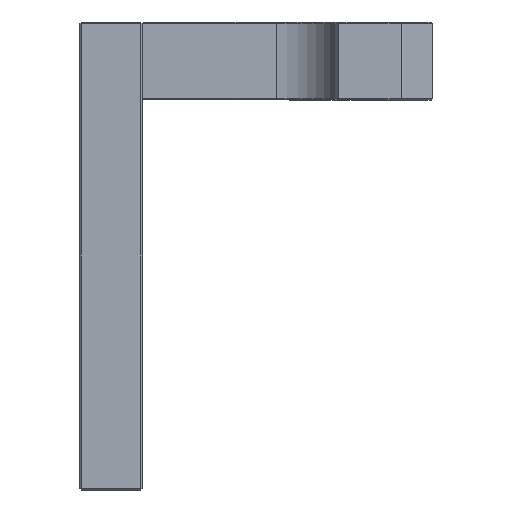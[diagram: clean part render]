
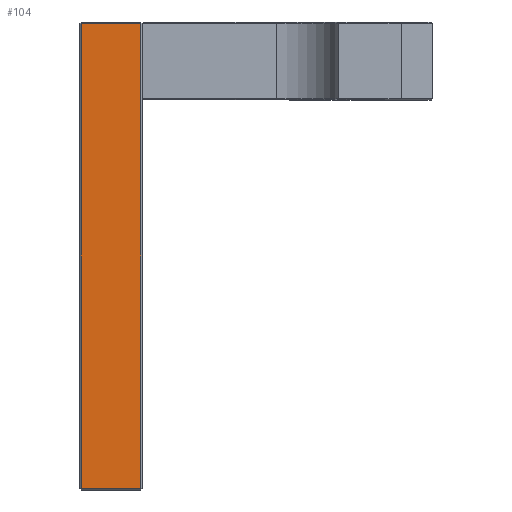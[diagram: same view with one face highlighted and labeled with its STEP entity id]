
A CAD part, left-side view. The second image highlights one B-rep face of the part: STEP entity #104.
In plain terms, the highlighted planar face has unit normal (-1, 0, 0).
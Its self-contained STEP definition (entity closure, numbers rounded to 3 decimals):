
#104 = ADVANCED_FACE ( 'NONE', ( #2378 ), #7153, .F. ) ;
#860 = AXIS2_PLACEMENT_3D ( 'NONE', #7157, #7151, #7150 ) ;
#1649 = EDGE_CURVE ( 'NONE', #4775, #4835, #5098, .T. ) ;
#1650 = EDGE_CURVE ( 'NONE', #4835, #4780, #5096, .T. ) ;
#1894 = EDGE_CURVE ( 'NONE', #4662, #4775, #2001, .T. ) ;
#1941 = EDGE_CURVE ( 'NONE', #4780, #4662, #2074, .T. ) ;
#2001 = LINE ( 'NONE', #6187, #2005 ) ;
#2005 = VECTOR ( 'NONE', #6110, 1000. ) ;
#2074 = LINE ( 'NONE', #4534, #2077 ) ;
#2077 = VECTOR ( 'NONE', #4533, 1000. ) ;
#2378 = FACE_OUTER_BOUND ( 'NONE', #4054, .T. ) ;
#3089 = ORIENTED_EDGE ( 'NONE', *, *, #1649, .T. ) ;
#3090 = ORIENTED_EDGE ( 'NONE', *, *, #1650, .T. ) ;
#4054 = EDGE_LOOP ( 'NONE', ( #5428, #3089, #3090, #5426 ) ) ;
#4160 = CARTESIAN_POINT ( 'NONE',  ( -75., 93.5, -0.5 ) ) ;
#4215 = CARTESIAN_POINT ( 'NONE',  ( -75., 112.5, -0.5 ) ) ;
#4220 = CARTESIAN_POINT ( 'NONE',  ( -75., 93.5, -149.5 ) ) ;
#4333 = CARTESIAN_POINT ( 'NONE',  ( -75., 112.5, -149.5 ) ) ;
#4533 = DIRECTION ( 'NONE',  ( 0., 0., -1. ) ) ;
#4534 = CARTESIAN_POINT ( 'NONE',  ( -75., 112.5, -150. ) ) ;
#4662 = VERTEX_POINT ( 'NONE', #4333 ) ;
#4775 = VERTEX_POINT ( 'NONE', #4220 ) ;
#4780 = VERTEX_POINT ( 'NONE', #4215 ) ;
#4835 = VERTEX_POINT ( 'NONE', #4160 ) ;
#5096 = LINE ( 'NONE', #5888, #5103 ) ;
#5098 = LINE ( 'NONE', #5874, #5101 ) ;
#5101 = VECTOR ( 'NONE', #5872, 1000. ) ;
#5103 = VECTOR ( 'NONE', #5871, 1000. ) ;
#5426 = ORIENTED_EDGE ( 'NONE', *, *, #1941, .T. ) ;
#5428 = ORIENTED_EDGE ( 'NONE', *, *, #1894, .T. ) ;
#5871 = DIRECTION ( 'NONE',  ( 0., 1., 0. ) ) ;
#5872 = DIRECTION ( 'NONE',  ( 0., 0., 1. ) ) ;
#5874 = CARTESIAN_POINT ( 'NONE',  ( -75., 93.5, -150. ) ) ;
#5888 = CARTESIAN_POINT ( 'NONE',  ( -75., 113., -0.5 ) ) ;
#6110 = DIRECTION ( 'NONE',  ( 0., -1., 0. ) ) ;
#6187 = CARTESIAN_POINT ( 'NONE',  ( -75., 113., -149.5 ) ) ;
#7150 = DIRECTION ( 'NONE',  ( 0., 0., -1. ) ) ;
#7151 = DIRECTION ( 'NONE',  ( 1., 0., 0. ) ) ;
#7153 = PLANE ( 'NONE',  #860 ) ;
#7157 = CARTESIAN_POINT ( 'NONE',  ( -75., 113., -150. ) ) ;
